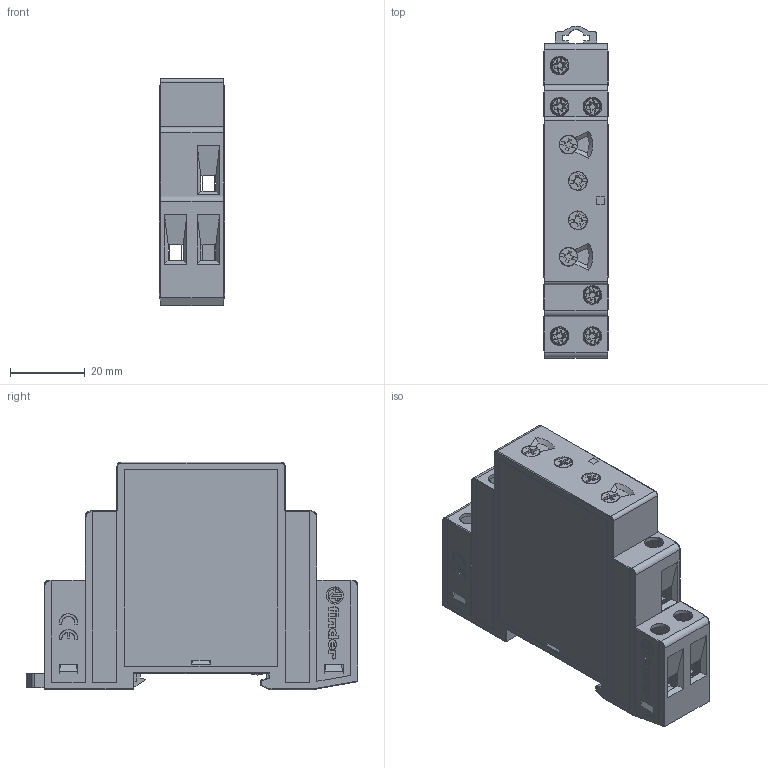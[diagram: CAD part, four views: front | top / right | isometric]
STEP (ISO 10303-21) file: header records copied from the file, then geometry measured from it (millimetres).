
FILE_DESCRIPTION(('STEP AP214'),'2;1');
FILE_NAME('8091---catalogo.stp','2011-01-27T14:21:14',(''),(''),'2007.1.106','THINKDESIGN','');
FILE_SCHEMA(('AUTOMOTIVE_DESIGN'));
Products named in the file (1): None
Bounding box: 17.5 x 88.85 x 60.8 mm (x, y, z)
Surface area: 15108.4 mm2 (no closed solid volume)
Topology: 0 solids, 0 shells, 894 faces, 4948 edges, 4936 vertices
Faces by surface type: plane 683, bspline 106, cylinder 105
Full cylindrical faces by diameter (mm): 5 x8
Entity records: 52588 total; most frequent: CARTESIAN_POINT 17198, DIRECTION 5952, COMPOSITE_CURVE_SEGMENT 4948, TRIMMED_CURVE 4158, VECTOR 3956, LINE 3956, AXIS2_PLACEMENT_3D 998, OUTER_BOUNDARY_CURVE 894
